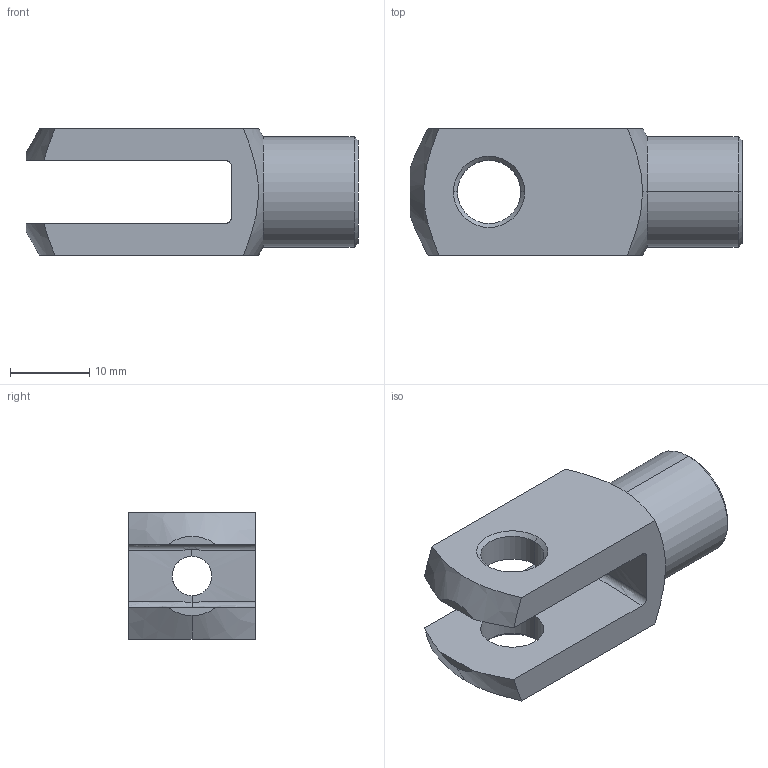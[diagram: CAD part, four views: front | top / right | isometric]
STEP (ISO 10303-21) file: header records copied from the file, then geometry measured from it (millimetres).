
FILE_DESCRIPTION (( 'STEP AP214' ), '1' );
FILE_NAME ('11.G816M6.STEP', '2017-10-30T09:04:29', ( '' ), ( '' ), 'SwSTEP 2.0', 'SolidWorks 2016', '' );
FILE_SCHEMA (( 'AUTOMOTIVE_DESIGN' ));
Length unit declared in the file: millimetre
Products named in the file (1): 11.G816M6
Bounding box: 42 x 16 x 16 mm (x, y, z)
Volume: 5192.5 mm3; surface area: 3356 mm2
Topology: 1 solids, 1 shells, 38 faces, 98 edges, 61 vertices
Faces by surface type: cone 13, cylinder 13, plane 9, torus 3
Entity records: 1410 total; most frequent: CARTESIAN_POINT 473, ORIENTED_EDGE 196, DIRECTION 178, EDGE_CURVE 98, AXIS2_PLACEMENT_3D 72, VERTEX_POINT 61, EDGE_LOOP 43, FACE_OUTER_BOUND 38
